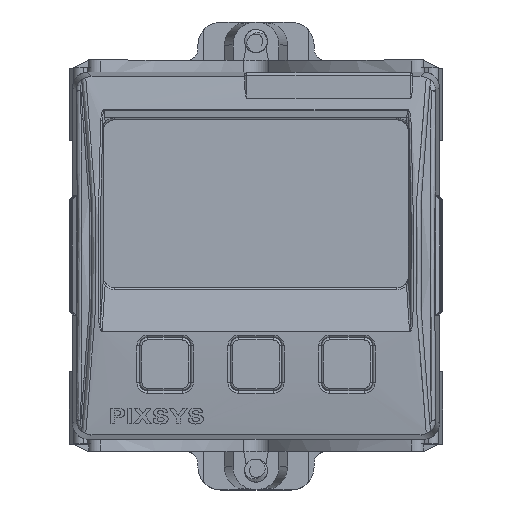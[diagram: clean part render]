
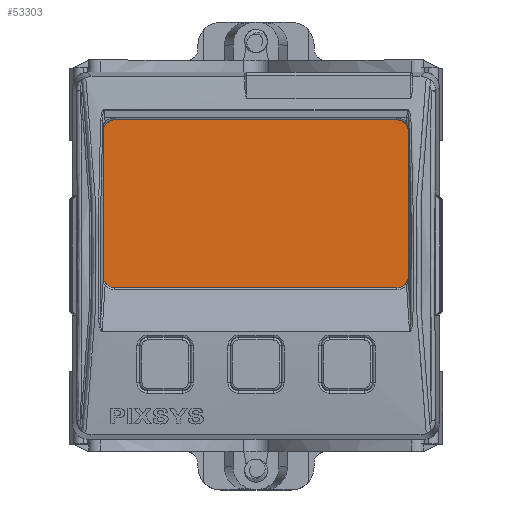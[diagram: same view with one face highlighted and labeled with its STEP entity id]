
A CAD part, top view. The second image highlights one B-rep face of the part: STEP entity #53303.
In plain terms, the highlighted planar face has unit normal (0, 0, 1).
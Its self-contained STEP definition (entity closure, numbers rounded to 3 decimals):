
#4080=DIRECTION('',(0.,-1.,0.));
#4081=VECTOR('',#4080,36.155);
#4082=CARTESIAN_POINT('',(-21.058,18.078,-0.47));
#4083=LINE('',#4082,#4081);
#4172=DIRECTION('',(0.,-1.,0.));
#4173=VECTOR('',#4172,1.378);
#4174=CARTESIAN_POINT('',(-17.275,-16.7,-0.47));
#4175=LINE('',#4174,#4173);
#4193=DIRECTION('',(-1.,0.,0.));
#4194=VECTOR('',#4193,3.783);
#4195=CARTESIAN_POINT('',(-17.275,-18.078,-0.47));
#4196=LINE('',#4195,#4194);
#4197=CARTESIAN_POINT('',(14.775,-17.2,-0.47));
#4198=DIRECTION('',(0.,0.,1.));
#4199=DIRECTION('',(0.936,-0.351,0.));
#4200=AXIS2_PLACEMENT_3D('',#4197,#4198,#4199);
#4202=CARTESIAN_POINT('',(14.775,-11.2,-0.47));
#4203=DIRECTION('',(0.,0.,1.));
#4204=DIRECTION('',(1.,0.,0.));
#4205=AXIS2_PLACEMENT_3D('',#4202,#4203,#4204);
#4207=CARTESIAN_POINT('',(-16.775,-9.2,-0.47));
#4208=DIRECTION('',(0.,0.,1.));
#4209=DIRECTION('',(0.,1.,0.));
#4210=AXIS2_PLACEMENT_3D('',#4207,#4208,#4209);
#4212=CARTESIAN_POINT('',(-17.775,-11.7,-0.47));
#4213=DIRECTION('',(0.,0.,-1.));
#4214=DIRECTION('',(1.,0.,0.));
#4215=AXIS2_PLACEMENT_3D('',#4212,#4213,#4214);
#4217=CARTESIAN_POINT('',(-18.775,-12.7,-0.47));
#4218=DIRECTION('',(0.,0.,1.));
#4219=DIRECTION('',(0.,1.,0.));
#4220=AXIS2_PLACEMENT_3D('',#4217,#4218,#4219);
#4222=CARTESIAN_POINT('',(-18.775,-15.7,-0.47));
#4223=DIRECTION('',(0.,0.,1.));
#4224=DIRECTION('',(-1.,0.,0.));
#4225=AXIS2_PLACEMENT_3D('',#4222,#4223,#4224);
#4227=CARTESIAN_POINT('',(-17.775,-16.7,-0.47));
#4228=DIRECTION('',(0.,0.,-1.));
#4229=DIRECTION('',(0.,1.,0.));
#4230=AXIS2_PLACEMENT_3D('',#4227,#4228,#4229);
#4232=DIRECTION('',(-1.,0.,0.));
#4233=VECTOR('',#4232,42.115);
#4234=CARTESIAN_POINT('',(21.058,18.078,-0.47));
#4235=LINE('',#4234,#4233);
#4259=DIRECTION('',(0.,-1.,0.));
#4260=VECTOR('',#4259,36.155);
#4261=CARTESIAN_POINT('',(21.058,18.078,-0.47));
#4262=LINE('',#4261,#4260);
#4287=CARTESIAN_POINT('',(17.116,-18.078,-0.47));
#4289=DIRECTION('',(1.,0.,0.));
#4290=VECTOR('',#4289,3.942);
#4291=CARTESIAN_POINT('',(17.116,-18.078,-0.47));
#4292=LINE('',#4291,#4290);
#6199=DIRECTION('',(1.,0.,0.));
#6200=VECTOR('',#6199,1.);
#6201=CARTESIAN_POINT('',(-18.775,-16.2,-0.47));
#6202=LINE('',#6201,#6200);
#6211=DIRECTION('',(0.,-1.,0.));
#6212=VECTOR('',#6211,3.);
#6213=CARTESIAN_POINT('',(-19.275,-12.7,-0.47));
#6214=LINE('',#6213,#6212);
#6223=DIRECTION('',(-1.,0.,0.));
#6224=VECTOR('',#6223,1.);
#6225=CARTESIAN_POINT('',(-17.775,-12.2,-0.47));
#6226=LINE('',#6225,#6224);
#6235=DIRECTION('',(0.,-1.,0.));
#6236=VECTOR('',#6235,2.5);
#6237=CARTESIAN_POINT('',(-17.275,-9.2,-0.47));
#6238=LINE('',#6237,#6236);
#6247=DIRECTION('',(-1.,0.,0.));
#6248=VECTOR('',#6247,31.55);
#6249=CARTESIAN_POINT('',(14.775,-8.7,-0.47));
#6250=LINE('',#6249,#6248);
#6259=DIRECTION('',(0.,1.,0.));
#6260=VECTOR('',#6259,6.);
#6261=CARTESIAN_POINT('',(17.275,-17.2,-0.47));
#6262=LINE('',#6261,#6260);
#40672=VERTEX_POINT('',#4287);
#40673=CARTESIAN_POINT('',(21.058,-18.078,-0.47));
#40674=VERTEX_POINT('',#40673);
#40679=CARTESIAN_POINT('',(21.058,18.078,-0.47));
#40680=VERTEX_POINT('',#40679);
#40698=CARTESIAN_POINT('',(-21.058,18.078,-0.47));
#40699=VERTEX_POINT('',#40698);
#40704=CARTESIAN_POINT('',(-21.058,-18.078,-0.47));
#40706=VERTEX_POINT('',#40704);
#40712=CARTESIAN_POINT('',(-17.275,-18.078,-0.47));
#40713=VERTEX_POINT('',#40712);
#40729=CARTESIAN_POINT('',(17.275,-17.2,-0.47));
#40730=VERTEX_POINT('',#40729);
#40731=CARTESIAN_POINT('',(17.275,-11.2,-0.47));
#40732=VERTEX_POINT('',#40731);
#40733=CARTESIAN_POINT('',(14.775,-8.7,-0.47));
#40734=VERTEX_POINT('',#40733);
#40735=CARTESIAN_POINT('',(-16.775,-8.7,-0.47));
#40736=VERTEX_POINT('',#40735);
#40737=CARTESIAN_POINT('',(-17.275,-9.2,-0.47));
#40738=VERTEX_POINT('',#40737);
#40739=CARTESIAN_POINT('',(-17.275,-11.7,-0.47));
#40740=VERTEX_POINT('',#40739);
#40741=CARTESIAN_POINT('',(-17.775,-12.2,-0.47));
#40742=VERTEX_POINT('',#40741);
#40743=CARTESIAN_POINT('',(-18.775,-12.2,-0.47));
#40744=VERTEX_POINT('',#40743);
#40745=CARTESIAN_POINT('',(-19.275,-12.7,-0.47));
#40746=VERTEX_POINT('',#40745);
#40747=CARTESIAN_POINT('',(-19.275,-15.7,-0.47));
#40748=VERTEX_POINT('',#40747);
#40749=CARTESIAN_POINT('',(-18.775,-16.2,-0.47));
#40750=VERTEX_POINT('',#40749);
#40751=CARTESIAN_POINT('',(-17.775,-16.2,-0.47));
#40752=VERTEX_POINT('',#40751);
#40753=CARTESIAN_POINT('',(-17.275,-16.7,-0.47));
#40754=VERTEX_POINT('',#40753);
#53261=CARTESIAN_POINT('',(0.,0.,-0.47));
#53262=DIRECTION('',(0.,0.,1.));
#53263=DIRECTION('',(1.,0.,0.));
#53264=AXIS2_PLACEMENT_3D('',#53261,#53262,#53263);
#53265=PLANE('',#53264);
#53266=ORIENTED_EDGE('',*,*,#53248,.T.);
#53267=ORIENTED_EDGE('',*,*,#52911,.F.);
#53269=ORIENTED_EDGE('',*,*,#53268,.F.);
#53271=ORIENTED_EDGE('',*,*,#53270,.T.);
#53273=ORIENTED_EDGE('',*,*,#53272,.F.);
#53275=ORIENTED_EDGE('',*,*,#53274,.T.);
#53277=ORIENTED_EDGE('',*,*,#53276,.T.);
#53279=ORIENTED_EDGE('',*,*,#53278,.T.);
#53281=ORIENTED_EDGE('',*,*,#53280,.T.);
#53283=ORIENTED_EDGE('',*,*,#53282,.T.);
#53285=ORIENTED_EDGE('',*,*,#53284,.T.);
#53287=ORIENTED_EDGE('',*,*,#53286,.T.);
#53289=ORIENTED_EDGE('',*,*,#53288,.T.);
#53291=ORIENTED_EDGE('',*,*,#53290,.T.);
#53293=ORIENTED_EDGE('',*,*,#53292,.T.);
#53295=ORIENTED_EDGE('',*,*,#53294,.T.);
#53297=ORIENTED_EDGE('',*,*,#53296,.T.);
#53299=ORIENTED_EDGE('',*,*,#53298,.T.);
#53300=ORIENTED_EDGE('',*,*,#53219,.T.);
#53301=EDGE_LOOP('',(#53266,#53267,#53269,#53271,#53273,#53275,#53277,#53279,
#53281,#53283,#53285,#53287,#53289,#53291,#53293,#53295,#53297,#53299,#53300));
#53302=FACE_OUTER_BOUND('',#53301,.F.);
#4201=CIRCLE('',#4200,2.5);
#4206=CIRCLE('',#4205,2.5);
#4211=CIRCLE('',#4210,0.5);
#4216=CIRCLE('',#4215,0.5);
#4221=CIRCLE('',#4220,0.5);
#4226=CIRCLE('',#4225,0.5);
#4231=CIRCLE('',#4230,0.5);
#52911=EDGE_CURVE('',#40699,#40706,#4083,.T.);
#53219=EDGE_CURVE('',#40754,#40713,#4175,.T.);
#53248=EDGE_CURVE('',#40713,#40706,#4196,.T.);
#53268=EDGE_CURVE('',#40680,#40699,#4235,.T.);
#53270=EDGE_CURVE('',#40680,#40674,#4262,.T.);
#53272=EDGE_CURVE('',#40672,#40674,#4292,.T.);
#53274=EDGE_CURVE('',#40672,#40730,#4201,.T.);
#53276=EDGE_CURVE('',#40730,#40732,#6262,.T.);
#53278=EDGE_CURVE('',#40732,#40734,#4206,.T.);
#53280=EDGE_CURVE('',#40734,#40736,#6250,.T.);
#53282=EDGE_CURVE('',#40736,#40738,#4211,.T.);
#53284=EDGE_CURVE('',#40738,#40740,#6238,.T.);
#53286=EDGE_CURVE('',#40740,#40742,#4216,.T.);
#53288=EDGE_CURVE('',#40742,#40744,#6226,.T.);
#53290=EDGE_CURVE('',#40744,#40746,#4221,.T.);
#53292=EDGE_CURVE('',#40746,#40748,#6214,.T.);
#53294=EDGE_CURVE('',#40748,#40750,#4226,.T.);
#53296=EDGE_CURVE('',#40750,#40752,#6202,.T.);
#53298=EDGE_CURVE('',#40752,#40754,#4231,.T.);
#53303=ADVANCED_FACE('',(#53302),#53265,.T.);
